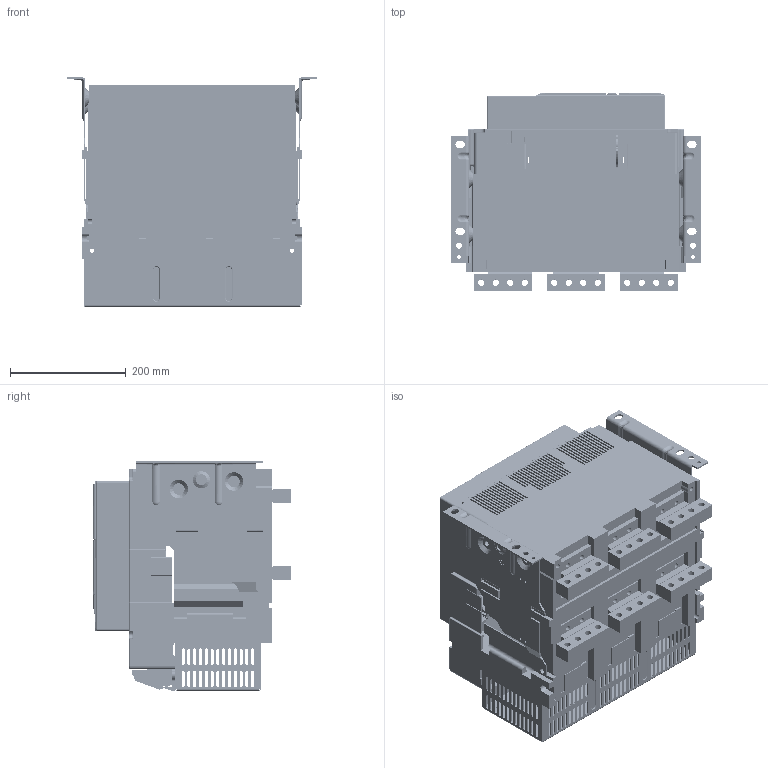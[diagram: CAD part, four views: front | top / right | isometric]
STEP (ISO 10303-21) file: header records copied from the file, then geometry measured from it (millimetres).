
FILE_DESCRIPTION((''),'2;1');
FILE_NAME('NA8-4000H-4000-F-3P_ASM','2020-03-17T12:56:06',('lcc'),(''),'CREO PARAMETRIC BY PTC INC, 2018020','CREO PARAMETRIC BY PTC INC, 2018020','');
FILE_SCHEMA(('CONFIG_CONTROL_DESIGN','SHAPE_APPEARANCE_LAYERS_GROUPS'));
Products named in the file (36): 4000-JIZUO-3P; 4000-DIBAN-3P; 8ZTD_123_166_2; 8ZTD_123_167_2; DEFAULT_BREP_X_03-871_1; DEFAULT_BREP_X_03-872_1; DEFAULT_BREP_X_03-873_1; DEFAULT_BREP_X_03-874_1; DEFAULT_BREP_X_03-875_1; DEFAULT_BREP_X_03-876_1; DEFAULT_BREP_X_03-877_1; 8ZTD_060_207_V4_ASM_1_ASM; 8ZTD_060_207_V4NA80001_ASM_1_ASM; 8ZTD_321_090_ID278_X_T_1; 8ZTD_282_1203_ID258_X_T_1; 8ZTD_253_779_V4_ID274_X_T_1; 8ZTD_253_780_V4_ID270_X_T_1; 8ZTD_253_781_ID286_X_T_1; 8ZTD_253_577_1; 8282A0820014; 5ZTD-060-114-1-2_ASM; 8060A0306108; 8060A0306109; 3P-8300A0306005_; 8ZTD-253-782; 8ZTD-064-138; 8ZTD-024-689; 8ZTD-860-511; 1600-DUANZI-CTS_ASM; 8-040-432; 8-004-030; 8-320-094; 8-860-KZQ; 8580A0412010; 8580A0412011; NA8-4000H-4000-F-3P_ASM
Assembly tree (53 placements, depth 5):
  NA8-4000H-4000-F-3P_ASM
    4000-JIZUO-3P
    4000-DIBAN-3P
    8ZTD_123_166_2
    8ZTD_123_167_2
    5ZTD-060-114-1-2_ASM
      8ZTD_060_207_V4NA80001_ASM_1_ASM
        8ZTD_060_207_V4_ASM_1_ASM
          DEFAULT_BREP_X_03-871_1
          DEFAULT_BREP_X_03-872_1
          DEFAULT_BREP_X_03-873_1
          DEFAULT_BREP_X_03-874_1
          DEFAULT_BREP_X_03-875_1
          DEFAULT_BREP_X_03-876_1
          DEFAULT_BREP_X_03-877_1
      8ZTD_321_090_ID278_X_T_1
      8ZTD_282_1203_ID258_X_T_1  x2
      8ZTD_253_779_V4_ID274_X_T_1
      8ZTD_253_780_V4_ID270_X_T_1
      8ZTD_253_781_ID286_X_T_1
      8ZTD_253_577_1
      8282A0820014
    8060A0306108
    8060A0306109
    3P-8300A0306005_
    8ZTD-253-782
    1600-DUANZI-CTS_ASM
      8ZTD-064-138
      8ZTD-024-689  x14
      8ZTD-860-511
    8-040-432
    8-004-030
    8-320-094
    8-860-KZQ
    8580A0412010  x2
    8580A0412011  x4
Bounding box: 430 x 341.4 x 396 mm (x, y, z)
Volume: 19574915.2 mm3; surface area: 2480534.4 mm2
Topology: 47 solids, 73 shells, 8140 faces, 23064 edges, 15113 vertices
Faces by surface type: plane 5652, cylinder 1450, torus 458, extrusion 231, bspline 191, cone 119, sphere 39
Entity records: 305556 total; most frequent: CARTESIAN_POINT 64536, ORIENTED_EDGE 33900, DIRECTION 30939, PRESENTATION_STYLE_ASSIGNMENT 20898, STYLED_ITEM 20778, EDGE_CURVE 16973, CURVE_STYLE 16004, VECTOR 12525
